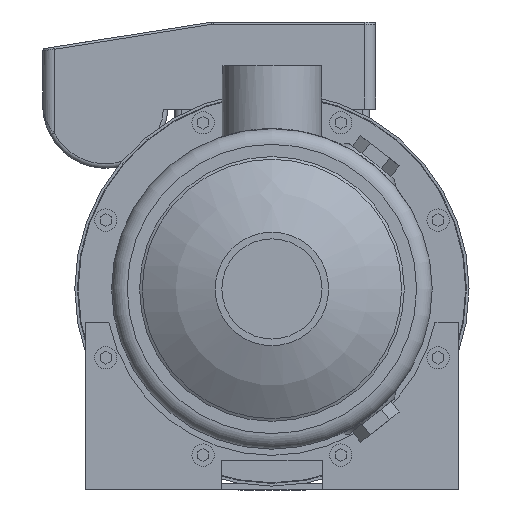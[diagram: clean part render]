
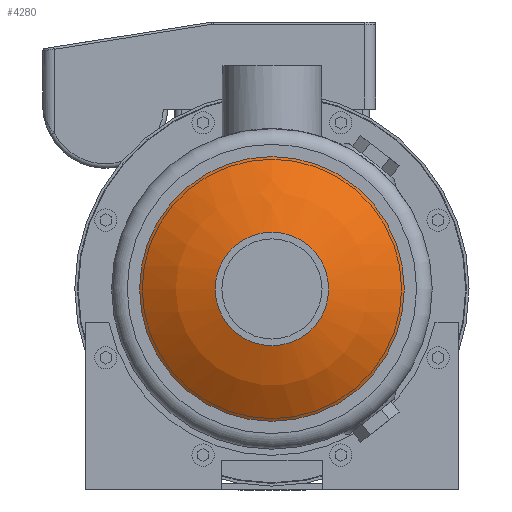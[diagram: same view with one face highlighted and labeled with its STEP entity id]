
A CAD part, left-side view. The second image highlights one B-rep face of the part: STEP entity #4280.
In plain terms, the highlighted spherical face has radius 100 mm.
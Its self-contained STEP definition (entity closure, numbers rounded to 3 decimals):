
#59=SPHERICAL_SURFACE('',#5681,100.);
#969=ORIENTED_EDGE('',*,*,#2140,.T.);
#970=ORIENTED_EDGE('',*,*,#2139,.F.);
#2139=EDGE_CURVE('',#2729,#2729,#3131,.T.);
#2140=EDGE_CURVE('',#2730,#2730,#3132,.T.);
#2729=VERTEX_POINT('',#7616);
#2730=VERTEX_POINT('',#7619);
#3131=CIRCLE('',#5680,25.4);
#3132=CIRCLE('',#5682,59.25);
#3336=EDGE_LOOP('',(#969));
#3337=EDGE_LOOP('',(#970));
#3731=FACE_BOUND('',#3336,.T.);
#3732=FACE_BOUND('',#3337,.T.);
#4280=ADVANCED_FACE('',(#3731,#3732),#59,.T.);
#5680=AXIS2_PLACEMENT_3D('',#7615,#6209,#6210);
#5681=AXIS2_PLACEMENT_3D('',#7617,#6211,#6212);
#5682=AXIS2_PLACEMENT_3D('',#7618,#6213,#6214);
#6209=DIRECTION('',(-1.,0.,0.));
#6210=DIRECTION('',(0.,0.,1.));
#6211=DIRECTION('',(-1.,0.,0.));
#6212=DIRECTION('',(0.,0.,1.));
#6213=DIRECTION('',(-1.,0.,0.));
#6214=DIRECTION('',(0.,0.,1.));
#7615=CARTESIAN_POINT('',(-52.02,0.,0.));
#7616=CARTESIAN_POINT('',(-52.02,0.,25.4));
#7617=CARTESIAN_POINT('',(44.7,0.,0.));
#7618=CARTESIAN_POINT('',(-35.857,0.,0.));
#7619=CARTESIAN_POINT('',(-35.857,0.,59.25));
